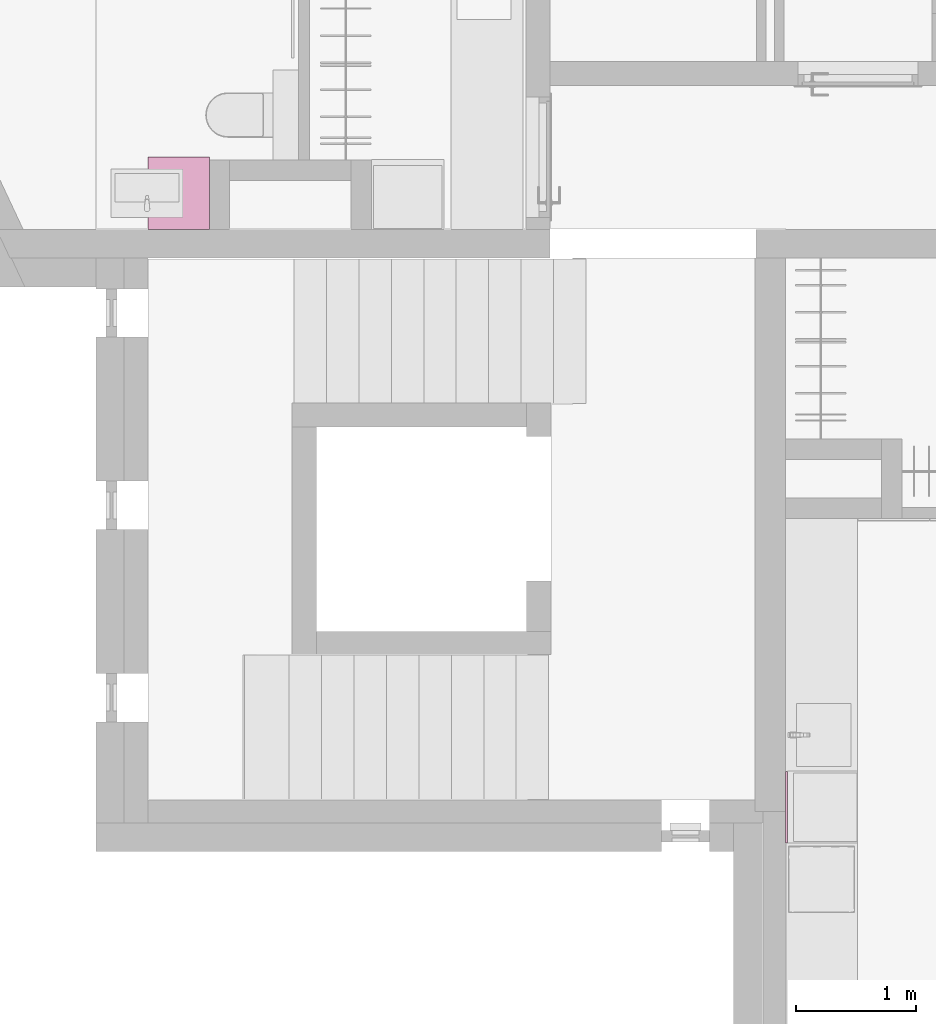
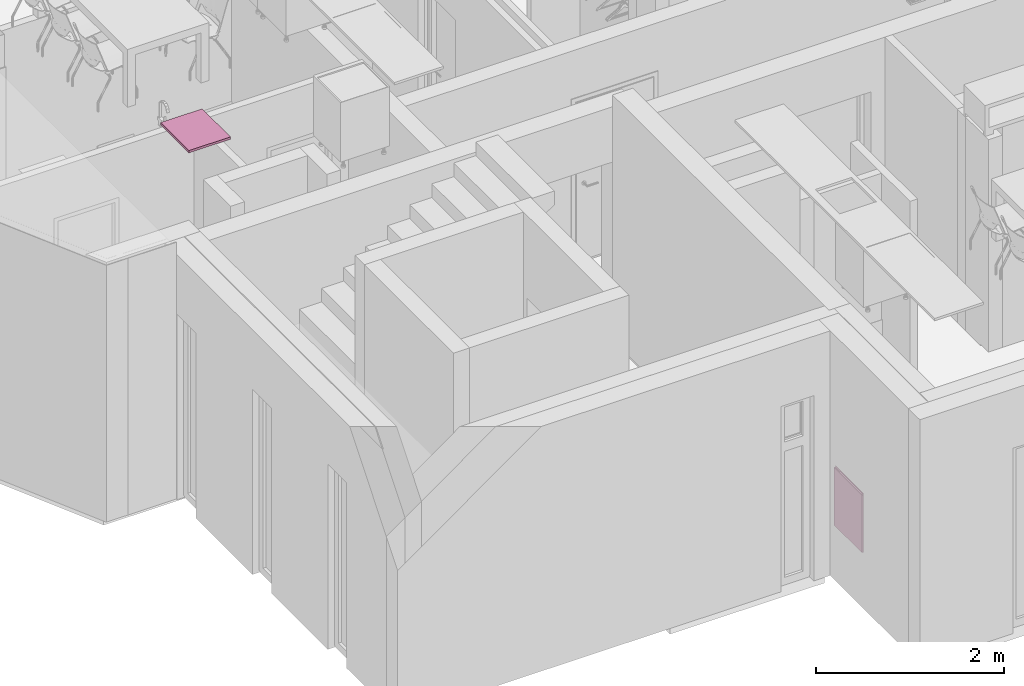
# One storey, part 36 of 68: 2 furnishings.
"""IFC2X3 building model written with IfcOpenShell, lengths in millimetres."""

import ifcopenshell
import ifcopenshell.guid

model = None  # the IFC model being written
_history = None  # IfcOwnerHistory: only IFC2X3 demands one
_inside = {}  # id of a spatial element -> (the spatial element, [elements in it])
_under = {}  # id of a project, library or spatial element -> (it, [spatial elements below it])
_declared = {}  # id of a project -> (the project, [libraries it declares])
_typed = {}  # id of a type object -> (the type object, [elements of that type])
_made_of = {}  # id of a material, layer set ... -> (it, [elements and type objects made of it])


def new_model(schema):
    """Start an empty IFC model of exactly this schema.

    Asked for "IFC4X3", IfcOpenShell would pick the latest addendum, in which some entities
    have other attributes; the version numbers below select the first issue.
    IFC2X3 requires an IfcOwnerHistory on every rooted entity: one is made here for all.
    """
    global model, _history
    if schema == "IFC4X3":
        model = ifcopenshell.file(schema_version=(4, 3, 0, 0))
    else:
        model = ifcopenshell.file(schema=schema)
    _inside.clear()
    _under.clear()
    _declared.clear()
    _typed.clear()
    _made_of.clear()
    _history = None
    if model.schema == "IFC2X3":
        org = make("IfcOrganization", Name="unknown")
        user = make(
            "IfcPersonAndOrganization",
            ThePerson=make("IfcPerson", FamilyName="unknown"),
            TheOrganization=org,
        )
        app = make(
            "IfcApplication",
            ApplicationDeveloper=org,
            Version="unknown",
            ApplicationFullName="unknown",
            ApplicationIdentifier="unknown",
        )
        _history = make(
            "IfcOwnerHistory",
            OwningUser=user,
            OwningApplication=app,
            ChangeAction="ADDED",
            CreationDate=0,
        )
    return model


def make(cls, **values):
    """One entity of the class cls with the attributes given. An attribute that is None is left unset."""
    return model.create_entity(
        cls, **{name: value for name, value in values.items() if value is not None}
    )


def entity(cls, *values):
    """Any entity or typed value of the class cls, its attributes in the order of the schema. None: left unset."""
    e = model.create_entity(cls)
    for i, value in enumerate(values):
        if value is not None:
            e[i] = value
    return e


def rooted(cls, **values):
    """An entity with a GlobalId (a new one), such as an element, a storey or a relation."""
    return make(cls, GlobalId=ifcopenshell.guid.new(), OwnerHistory=_history, **values)


def si_unit(unit_type, name, prefix=None):
    """IfcSIUnit, for example si_unit("LENGTHUNIT", "METRE", prefix="MILLI")."""
    return make("IfcSIUnit", UnitType=unit_type, Prefix=prefix, Name=name)


def converted_unit(unit_type, name, factor, base, dimensions=None, offset=None):
    """IfcConversionBasedUnit, such as the inch: factor (a typed value) times the base unit."""
    return make(
        "IfcConversionBasedUnit"
        if offset is None
        else "IfcConversionBasedUnitWithOffset",
        ConversionOffset=offset,
        Dimensions=None
        if dimensions is None
        else entity("IfcDimensionalExponents", *dimensions),
        UnitType=unit_type,
        Name=name,
        ConversionFactor=make(
            "IfcMeasureWithUnit", ValueComponent=factor, UnitComponent=base
        ),
    )


def assignment(units):
    """IfcUnitAssignment: the units of a project."""
    return None if units is None else make("IfcUnitAssignment", Units=units)


def point(xyz):
    """IfcCartesianPoint."""
    return None if xyz is None else make("IfcCartesianPoint", Coordinates=xyz)


def direction(xyz):
    """IfcDirection."""
    return None if xyz is None else make("IfcDirection", DirectionRatios=xyz)


def frame(location, z_axis=None, x_axis=None):
    """IfcAxis2Placement3D, a coordinate frame: its origin and axes. An axis left out is left unset."""
    return make(
        "IfcAxis2Placement3D",
        Location=point(location),
        Axis=direction(z_axis),
        RefDirection=direction(x_axis),
    )


def frame_2d(location, x_axis=None):
    """IfcAxis2Placement2D, a coordinate frame in the plane: its origin and x axis."""
    return make(
        "IfcAxis2Placement2D", Location=point(location), RefDirection=direction(x_axis)
    )


def origin():
    """The frame at (0, 0, 0) with its axes left unset."""
    return frame((0.0, 0.0, 0.0))


def origin_2d_with_axis():
    """The frame at (0, 0) in the plane with the x axis (1, 0) written out."""
    return frame_2d((0.0, 0.0), x_axis=(1.0, 0.0))


def place(relative_to, where):
    """IfcLocalPlacement: puts the frame where relative to a parent placement (None: the world)."""
    return make(
        "IfcLocalPlacement", PlacementRelTo=relative_to, RelativePlacement=where
    )


def context(
    kind, dimensions, precision=None, world=None, true_north=None, identifier=None
):
    """IfcGeometricRepresentationContext, for example the 3D "Model" context."""
    return make(
        "IfcGeometricRepresentationContext",
        ContextIdentifier=identifier,
        ContextType=kind,
        CoordinateSpaceDimension=dimensions,
        Precision=precision,
        WorldCoordinateSystem=world,
        TrueNorth=true_north,
    )


def subcontext(parent, identifier, kind, view, scale=None):
    """IfcGeometricRepresentationSubContext, for example "Body" below "Model"."""
    return make(
        "IfcGeometricRepresentationSubContext",
        ContextIdentifier=identifier,
        ContextType=kind,
        ParentContext=parent,
        TargetScale=scale,
        TargetView=view,
    )


def project(units=None, contexts=None):
    """IfcProject with its units and contexts."""
    return rooted(
        "IfcProject",
        Name="project",
        RepresentationContexts=contexts,
        UnitsInContext=assignment(units),
    )


def spatial(cls, under=None, at=None, **own):
    """A site, building, storey or space (cls), placed at a placement, below another one or the project."""
    s = rooted(cls, ObjectPlacement=at, **own)
    if under is not None:
        _under.setdefault(under.id(), (under, []))[1].append(s)
    return s


def polyline(points):
    """IfcPolyline through the points."""
    return make("IfcPolyline", Points=[point(p) for p in points])


def profile(cls, at=None, kind="AREA", **sizes):
    """A parametric profile (cls). Its sizes go by their IFC names, for example OverallWidth=200.0."""
    return make(cls, ProfileType=kind, Position=at, **sizes)


def rectangle(**sizes):
    """IfcRectangleProfileDef."""
    return profile("IfcRectangleProfileDef", **sizes)


def outline(outer, holes=None, kind="AREA"):
    """IfcArbitraryClosedProfileDef: a profile drawn as a closed curve; with holes, ...WithVoids."""
    if holes is None:
        return make("IfcArbitraryClosedProfileDef", ProfileType=kind, OuterCurve=outer)
    return make(
        "IfcArbitraryProfileDefWithVoids",
        ProfileType=kind,
        OuterCurve=outer,
        InnerCurves=holes,
    )


def extrude(swept, where, along, depth):
    """IfcExtrudedAreaSolid: the profile swept, set in the frame where, extruded along a direction by depth."""
    return make(
        "IfcExtrudedAreaSolid",
        SweptArea=swept,
        Position=where,
        ExtrudedDirection=direction(along),
        Depth=depth,
    )


def shape(context_of_items, identifier, shape_type, items):
    """IfcShapeRepresentation: the items that make up one representation, for example the "Body"."""
    return make(
        "IfcShapeRepresentation",
        ContextOfItems=context_of_items,
        RepresentationIdentifier=identifier,
        RepresentationType=shape_type,
        Items=items,
    )


def source(mapping_origin, context_of_items, identifier, shape_type, items):
    """IfcRepresentationMap: a shape defined once, which mapped items show again and again."""
    return make(
        "IfcRepresentationMap",
        MappingOrigin=mapping_origin,
        MappedRepresentation=shape(context_of_items, identifier, shape_type, items),
    )


def transform(
    local_origin,
    x_axis=None,
    y_axis=None,
    z_axis=None,
    scale=None,
    scale2=None,
    scale3=None,
    uniform=True,
):
    """IfcCartesianTransformationOperator3D, or its non-uniform kind. x_axis, y_axis, z_axis: its Axis1, 2, 3."""
    if uniform:
        return make(
            "IfcCartesianTransformationOperator3D",
            Axis1=direction(x_axis),
            Axis2=direction(y_axis),
            LocalOrigin=point(local_origin),
            Scale=scale,
            Axis3=direction(z_axis),
        )
    return make(
        "IfcCartesianTransformationOperator3DnonUniform",
        Axis1=direction(x_axis),
        Axis2=direction(y_axis),
        LocalOrigin=point(local_origin),
        Scale=scale,
        Axis3=direction(z_axis),
        Scale2=scale2,
        Scale3=scale3,
    )


def mapped(mapping_source, mapping_target):
    """IfcMappedItem: shows the shape of a source again, moved by a transform."""
    return make(
        "IfcMappedItem", MappingSource=mapping_source, MappingTarget=mapping_target
    )


def material(Name=None, Category=None):
    """IfcMaterial."""
    return make("IfcMaterial", Name=Name, Category=Category)


def made_of(thing, what):
    """Note that an element or type object is made of a material, layer set ...; save() writes the relation."""
    if what is not None:
        _made_of.setdefault(what.id(), (what, []))[1].append(thing)
    return thing


def type_object(cls, material=None, **own):
    """A type object (cls), such as IfcWallType, which elements share."""
    return made_of(rooted(cls, **own), material)


def type_shapes(of_type, sources):
    """Give a type object the sources (RepresentationMaps) that its elements show as mapped items."""
    of_type.RepresentationMaps = sources


def element(
    cls,
    number,
    at=None,
    inside=None,
    cuts=None,
    type_object=None,
    material=None,
    context=None,
    identifier="Body",
    shape_type=None,
    held_by="IfcProductDefinitionShape",
    body=None,
    shapes=None,
    **own,
):
    """One element of the class cls, such as IfcWall. Its Tag is "e" and its number.

    at: its placement. inside: the storey or other place that contains it. cuts: it is an
    opening in that element (IfcRelVoidsElement). A single representation is given by context,
    identifier, shape_type and body (its items); several are given by shapes. held_by: the class
    of the entity that holds the representations. save() writes the other relations.
    """
    e = rooted(cls, Tag="e%d" % number, ObjectPlacement=at, **own)
    if body is not None:
        shapes = [shape(context, identifier, shape_type, body)]
    if shapes is not None:
        e.Representation = make(held_by, Representations=shapes)
    if inside is not None:
        _inside.setdefault(inside.id(), (inside, []))[1].append(e)
    if cuts is not None:
        rooted(
            "IfcRelVoidsElement", RelatingBuildingElement=cuts, RelatedOpeningElement=e
        )
    if type_object is not None:
        _typed.setdefault(type_object.id(), (type_object, []))[1].append(e)
    return made_of(e, material)


def aggregate(whole, parts):
    """IfcRelAggregates: a whole, such as a stair, and the parts it consists of."""
    return rooted("IfcRelAggregates", RelatingObject=whole, RelatedObjects=parts)


def save(model, path):
    """Write the relations noted so far, then the file.

    IfcRelAggregates (storeys below a building ...), IfcRelContainedInSpatialStructure (elements
    in a storey), IfcRelDefinesByType, IfcRelAssociatesMaterial and IfcRelDeclares: one each for
    every whole, place, type object, material and project.
    """
    for whole, parts in _under.values():
        aggregate(whole, parts)
    for where, things in _inside.values():
        rooted(
            "IfcRelContainedInSpatialStructure",
            RelatedElements=things,
            RelatingStructure=where,
        )
    for kind, things in _typed.values():
        rooted("IfcRelDefinesByType", RelatedObjects=things, RelatingType=kind)
    for what, things in _made_of.values():
        rooted("IfcRelAssociatesMaterial", RelatedObjects=things, RelatingMaterial=what)
    for by, libraries in _declared.values():
        rooted("IfcRelDeclares", RelatingContext=by, RelatedDefinitions=libraries)
    model.write(path)


model = new_model("IFC2X3")

# Units and contexts
model_context = context("Model", 3, precision=0.01, world=origin(), true_north=direction((6.123233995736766e-17, 1.0)))
plan_context = context("Plan", 3, precision=0.01, world=origin(), true_north=direction((6.123233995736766e-17, 1.0)))
body_context = subcontext(model_context, "Body", "Model", "MODEL_VIEW")
ifc_project = project(units=[si_unit("LENGTHUNIT", "METRE", prefix="MILLI"), converted_unit("PLANEANGLEUNIT", "DEGREE", entity("IfcPlaneAngleMeasure", 0.017453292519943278), si_unit("PLANEANGLEUNIT", "RADIAN"), dimensions=[0, 0, 0, 0, 0, 0, 0]), si_unit("AREAUNIT", "SQUARE_METRE")], contexts=[model_context, plan_context])

# Site, building, storey, space
site_placement = place(None, origin())
site = spatial("IfcSite", under=ifc_project, at=site_placement, Name="Default", CompositionType="ELEMENT")
building_placement = place(site_placement, origin())
building = spatial("IfcBuilding", under=site, at=building_placement, CompositionType="ELEMENT")
storey_placement = place(building_placement, frame((0.0, 0.0, 6295.0)))
storey = spatial("IfcBuildingStorey", under=building, at=storey_placement, Name="3K", CompositionType="ELEMENT", Elevation=6294.999999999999)
space_1_placement = place(storey_placement, origin())
space_1 = spatial("IfcSpace", under=storey, at=space_1_placement, Name="3-8.2", CompositionType="ELEMENT", InteriorOrExteriorSpace="INTERNAL")

# Furnishing
ifc_material = material(Name="<Unnamed>")
furniture_type_1 = type_object("IfcFurnitureType", Name="HR_Casework-components_Front-panel_Generic_v1_1x:Default", AssemblyPlace="NOTDEFINED", material=ifc_material)
shared_shape_1 = source(origin(), body_context, "Body", "SweptSolid", [
    extrude(outline(polyline([(-7.0, -9.500000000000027), (15.0, -9.500000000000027), (15.0, -8.499999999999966), (-6.0, -8.499999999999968), (-6.0, 8.499999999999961), (-2.0, 8.499999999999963), (-2.0, 9.500000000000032), (-7.0, 9.500000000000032), (-7.0, -9.500000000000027)])), frame((-297.0, 367.0, 9.499999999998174), z_axis=(1.0, 0.0, 0.0), x_axis=(0.0, 1.0, 0.0)), (0.0, 0.0, 1.0), 593.9999999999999),
    extrude(rectangle(XDim=594.0, YDim=745.0000000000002, at=origin_2d_with_axis()), frame((0.0, -12.500000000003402, 0.0), z_axis=(0.0, 0.0, 1.0), x_axis=(-1.0, 0.0, 0.0)), (0.0, 0.0, 1.0), 19.00000000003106),
])
type_shapes(furniture_type_1, [shared_shape_1])
furnishing_1_placement = place(space_1_placement, frame((5319.0, 1840.0, 485.0), z_axis=(-1.0, 0.0, 0.0), x_axis=(0.0, -1.0, 0.0)))
element("IfcFurnishingElement", 1, at=furnishing_1_placement, inside=space_1, type_object=furniture_type_1, material=ifc_material, Name="HR_Casework-components_Front-panel_Generic_v1_1x:Default", ObjectType="HR_Casework-components_Front-panel_Generic_v1_1x:Default", context=body_context, shape_type="MappedRepresentation", body=[
    mapped(shared_shape_1, transform((0.0, 0.0, 0.0), scale=1.0)),
])

# Space
space_2_placement = place(storey_placement, origin())
space_2 = spatial("IfcSpace", under=storey, at=space_2_placement, Name="3-5.4", CompositionType="ELEMENT", InteriorOrExteriorSpace="INTERNAL")

# Furnishing
furniture_type_2 = type_object("IfcFurnitureType", Name="HR_Casework_Work-surface_Generic_Rectangular_v1:Default", AssemblyPlace="NOTDEFINED", material=ifc_material)
shared_shape_2 = source(origin(), body_context, "Body", "SweptSolid", [
    extrude(rectangle(XDim=510.00000000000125, YDim=600.0, at=frame_2d((8.810729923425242e-13, 0.0), x_axis=(1.0, 0.0))), frame((0.0, 300.0, -8595.000076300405)), (0.0, 0.0, 1.0), 29.999999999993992),
])
type_shapes(furniture_type_2, [shared_shape_2])
furnishing_2_placement = place(space_2_placement, frame((255.0, 7244.999959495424, 12635.000152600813), z_axis=(0.0, 0.0, 1.0), x_axis=(-1.0, 0.0, 0.0)))
element("IfcFurnishingElement", 2, at=furnishing_2_placement, inside=space_2, type_object=furniture_type_2, material=ifc_material, Name="HR_Casework_Work-surface_Generic_Rectangular_v1:Default", ObjectType="HR_Casework_Work-surface_Generic_Rectangular_v1:Default", context=body_context, shape_type="MappedRepresentation", body=[
    mapped(shared_shape_2, transform((0.0, 0.0, 0.0), scale=1.0)),
])

save(model, "model.ifc")
